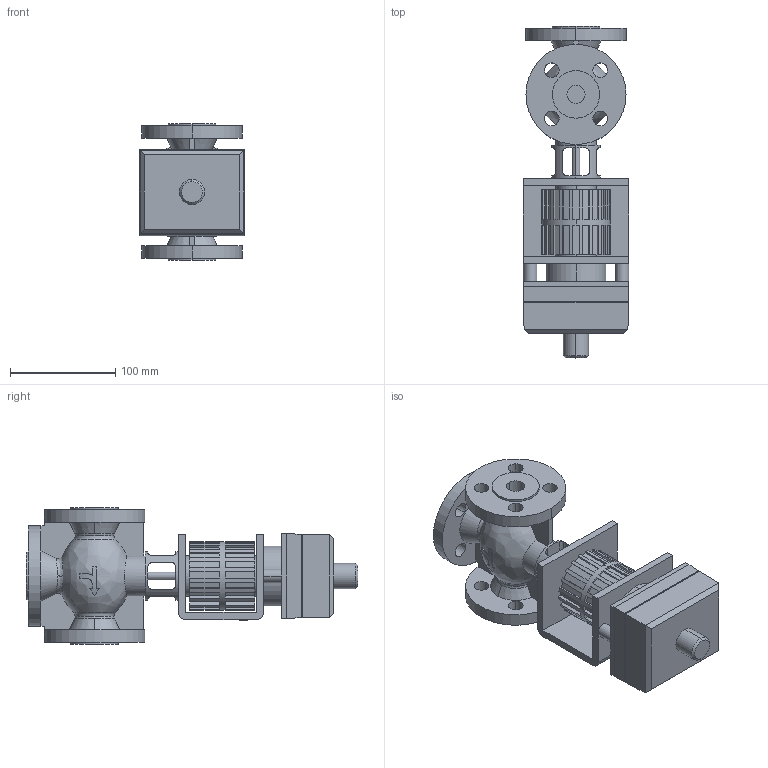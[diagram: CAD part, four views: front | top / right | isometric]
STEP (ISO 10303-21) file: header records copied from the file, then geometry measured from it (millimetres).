
FILE_DESCRIPTION((''),'2;1');
FILE_NAME('000260.stp','2006-10-04T16:02:38',(''),(''),'Mechanical Desktop 2006','Mechanical Desktop 2006',', , ');
FILE_SCHEMA(('AUTOMOTIVE_DESIGN { 1 2 10303 214 0 1 1 1 }'));
Length unit declared in the file: millimetre
Products named in the file (1): Product
Bounding box: 100 x 315 x 130 mm (x, y, z)
Volume: 1409405.4 mm3; surface area: 250671.3 mm2
Topology: 24 solids, 24 shells, 569 faces, 1531 edges, 1010 vertices
Faces by surface type: plane 261, cylinder 186, bspline 112, cone 10
Entity records: 19746 total; most frequent: CARTESIAN_POINT 5517, ORIENTED_EDGE 3062, DIRECTION 2779, EDGE_CURVE 1531, VERTEX_POINT 1010, VECTOR 947, LINE 947, AXIS2_PLACEMENT_3D 916
